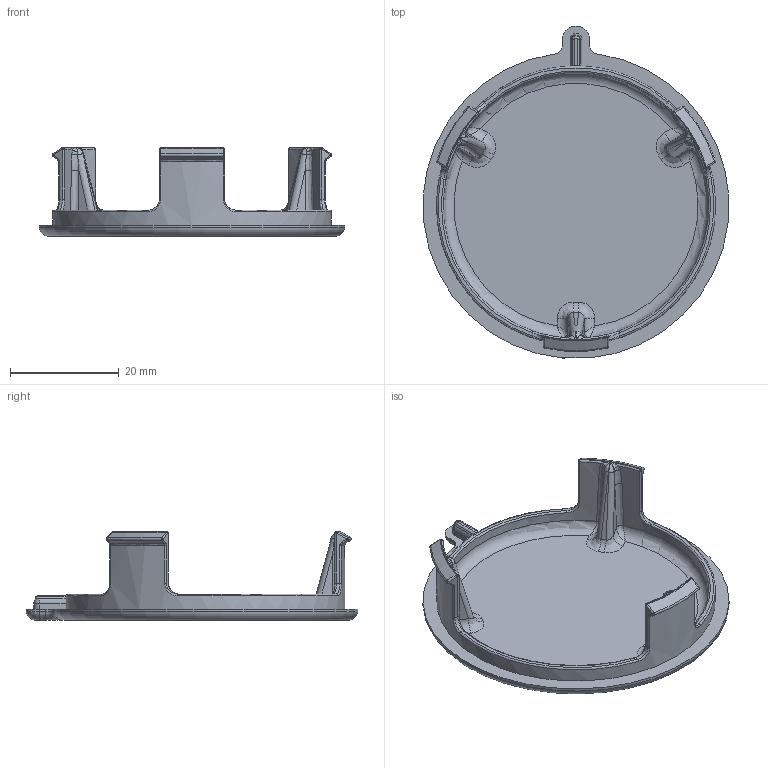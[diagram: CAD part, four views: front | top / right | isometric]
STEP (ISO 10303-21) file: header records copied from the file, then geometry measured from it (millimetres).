
FILE_DESCRIPTION((''),'2;1');
FILE_NAME('FRISBEE_GESAMT_ASM','2026-04-08T19:31:52',('m.kloibhofer'),(''),'CREO PARAMETRIC BY PTC INC, 2025093','CREO PARAMETRIC BY PTC INC, 2025093','');
FILE_SCHEMA(('AUTOMOTIVE_DESIGN { 1 0 10303 214 1 1 1 1 }'));
Products named in the file (3): FISBEE_INSERT_SUMMER_1; FISBEE_INSERT_SUMMER_2; FRISBEE_GESAMT_ASM
Assembly tree (2 placements, depth 2):
  FRISBEE_GESAMT_ASM
    FISBEE_INSERT_SUMMER_1
    FISBEE_INSERT_SUMMER_2
Bounding box: 56.19 x 61.05 x 16.22 mm (x, y, z)
Volume: 4274 mm3; surface area: 9003 mm2
Topology: 29 solids, 29 shells, 4485 faces, 12976 edges, 8592 vertices
Faces by surface type: cylinder 4105, plane 239, bspline 86, torus 24, sphere 18, cone 7, revolution 4, extrusion 2
Entity records: 226625 total; most frequent: CARTESIAN_POINT 30385, DIRECTION 29819, ORIENTED_EDGE 25952, PRESENTATION_STYLE_ASSIGNMENT 17496, STYLED_ITEM 17496, CURVE_STYLE 12982, EDGE_CURVE 12976, AXIS2_PLACEMENT_3D 12677
